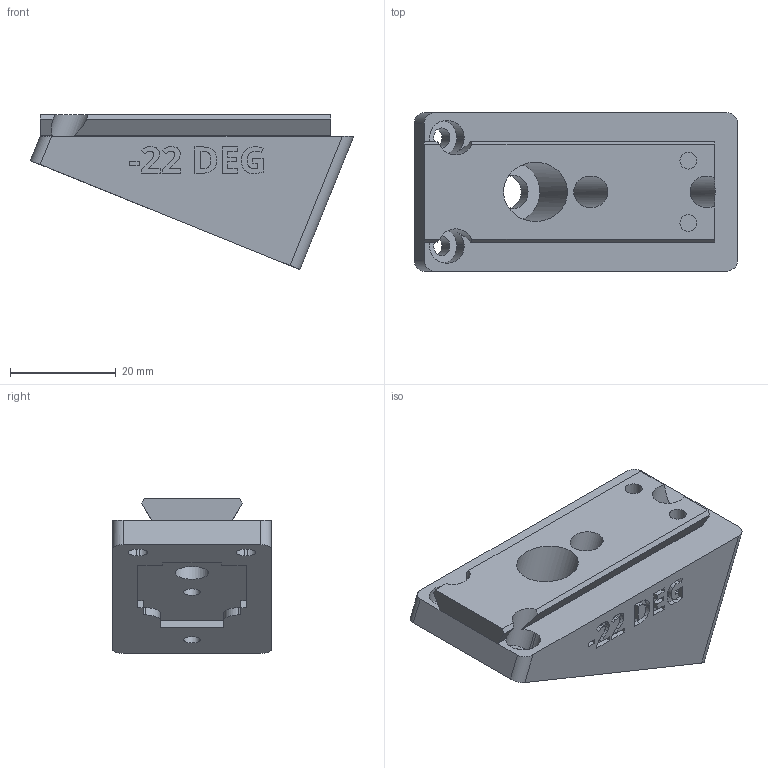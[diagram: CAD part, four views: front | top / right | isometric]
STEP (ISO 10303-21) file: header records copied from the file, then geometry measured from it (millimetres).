
FILE_DESCRIPTION(/* description */ ('STEP AP242 Edition 2','CAx-IF Rec.Pracs.---Representation and Presentation of Product Manufacturing Information (PMI)---4.0---2014-10-13','CAx-IF Rec.Pracs.---3D Tessellated Geometry---0.4---2014-09-14','2;1','CAx-IF Rec.Pracs.---User Defined Attributes---1.5---2016-08-15'),/* implementation_level */ '2;1');
FILE_NAME(/* name */ 'Camera Wedges - CAMERA MOUNTING WEDGE, NEG, -22 DEG',/* time_stamp */ '2026-07-08T20:35:37Z',/* author */ (''),/* organization */ (''),/* preprocessor_version */ 'ST-DEVELOPER v20',/* originating_system */ 'ONSHAPE BY PTC INC, 1.217',/* authorisation */ ' ');
FILE_SCHEMA (('AP242_MANAGED_MODEL_BASED_3D_ENGINEERING_MIM_LF { 1 0 10303 442 3 1 4 }'));
Length unit declared in the file: metre
Products named in the file (1): CAMERA MOUNTING WEDGE, NEG, -22 DEG
Bounding box: 61.18 x 30 x 29.32 mm (x, y, z)
Volume: 26571.1 mm3; surface area: 8721.5 mm2
Topology: 1 solids, 1 shells, 282 faces, 781 edges, 520 vertices
Faces by surface type: plane 154, cylinder 68, bspline 60
Full cylindrical faces by diameter (mm): 3.2 x4, 6 x2, 6.4 x1, 11.2 x1
Entity records: 9193 total; most frequent: CARTESIAN_POINT 2234, ORIENTED_EDGE 1544, DIRECTION 1249, EDGE_CURVE 772, VERTEX_POINT 519, LINE 501, VECTOR 501, AXIS2_PLACEMENT_3D 374
